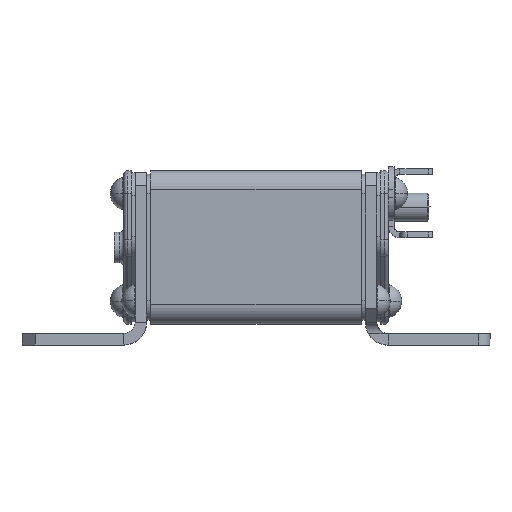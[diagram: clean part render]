
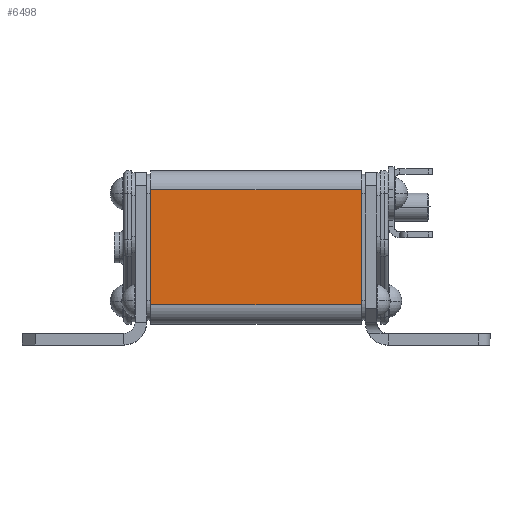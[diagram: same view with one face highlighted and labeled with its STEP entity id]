
A CAD part, top view. The second image highlights one B-rep face of the part: STEP entity #6498.
In plain terms, the highlighted planar face has unit normal (0, 0, 1).
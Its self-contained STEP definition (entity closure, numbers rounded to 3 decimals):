
#2209 = ORIENTED_EDGE ( 'NONE', *, *, #2251, .F. ) ;
#2251 = EDGE_CURVE ( 'NONE', #7502, #15592, #11799, .T. ) ;
#2506 = VECTOR ( 'NONE', #9154, 1000. ) ;
#3115 = CARTESIAN_POINT ( 'NONE',  ( 55., -20., 20. ) ) ;
#3244 = VECTOR ( 'NONE', #18710, 1000. ) ;
#3322 = CARTESIAN_POINT ( 'NONE',  ( 55., -20., 20. ) ) ;
#4173 = CARTESIAN_POINT ( 'NONE',  ( 0., 15., 20. ) ) ;
#5408 = DIRECTION ( 'NONE',  ( -1., 0., 0. ) ) ;
#6498 = ADVANCED_FACE ( 'NONE', ( #6822 ), #20838, .T. ) ;
#6822 = FACE_OUTER_BOUND ( 'NONE', #16180, .T. ) ;
#7434 = LINE ( 'NONE', #16199, #2506 ) ;
#7502 = VERTEX_POINT ( 'NONE', #21479 ) ;
#7990 = EDGE_CURVE ( 'NONE', #16822, #8494, #11369, .T. ) ;
#8449 = DIRECTION ( 'NONE',  ( 0., 0., 1. ) ) ;
#8494 = VERTEX_POINT ( 'NONE', #16168 ) ;
#8561 = ORIENTED_EDGE ( 'NONE', *, *, #7990, .T. ) ;
#9154 = DIRECTION ( 'NONE',  ( 1., 0., 0. ) ) ;
#9452 = ORIENTED_EDGE ( 'NONE', *, *, #11350, .T. ) ;
#9833 = CARTESIAN_POINT ( 'NONE',  ( 0., -20., 20. ) ) ;
#11350 = EDGE_CURVE ( 'NONE', #8494, #15592, #12943, .T. ) ;
#11369 = LINE ( 'NONE', #3322, #21788 ) ;
#11799 = LINE ( 'NONE', #9833, #3244 ) ;
#12943 = LINE ( 'NONE', #14219, #20349 ) ;
#13655 = DIRECTION ( 'NONE',  ( 1., 0., 0. ) ) ;
#14219 = CARTESIAN_POINT ( 'NONE',  ( 55., 15., 20. ) ) ;
#14549 = AXIS2_PLACEMENT_3D ( 'NONE', #3115, #8449, #13655 ) ;
#15592 = VERTEX_POINT ( 'NONE', #4173 ) ;
#15626 = DIRECTION ( 'NONE',  ( 0., 1., 0. ) ) ;
#16168 = CARTESIAN_POINT ( 'NONE',  ( 55., 15., 20. ) ) ;
#16180 = EDGE_LOOP ( 'NONE', ( #2209, #22240, #8561, #9452 ) ) ;
#16199 = CARTESIAN_POINT ( 'NONE',  ( 55., -15., 20. ) ) ;
#16822 = VERTEX_POINT ( 'NONE', #22207 ) ;
#18710 = DIRECTION ( 'NONE',  ( 0., 1., 0. ) ) ;
#18836 = EDGE_CURVE ( 'NONE', #7502, #16822, #7434, .T. ) ;
#20349 = VECTOR ( 'NONE', #5408, 1000. ) ;
#20838 = PLANE ( 'NONE',  #14549 ) ;
#21479 = CARTESIAN_POINT ( 'NONE',  ( 0., -15., 20. ) ) ;
#21788 = VECTOR ( 'NONE', #15626, 1000. ) ;
#22207 = CARTESIAN_POINT ( 'NONE',  ( 55., -15., 20. ) ) ;
#22240 = ORIENTED_EDGE ( 'NONE', *, *, #18836, .T. ) ;
